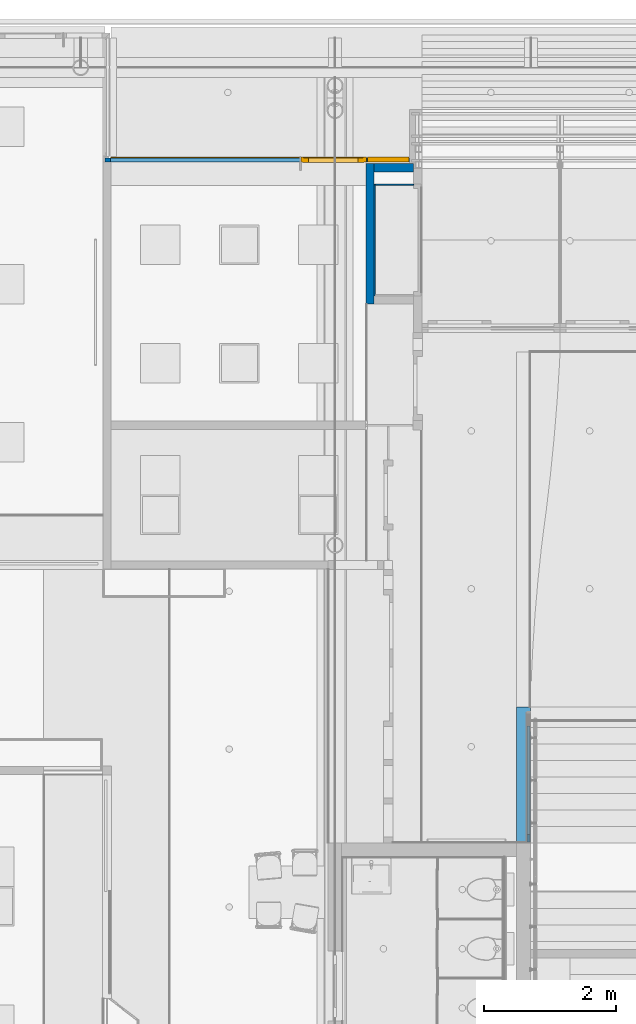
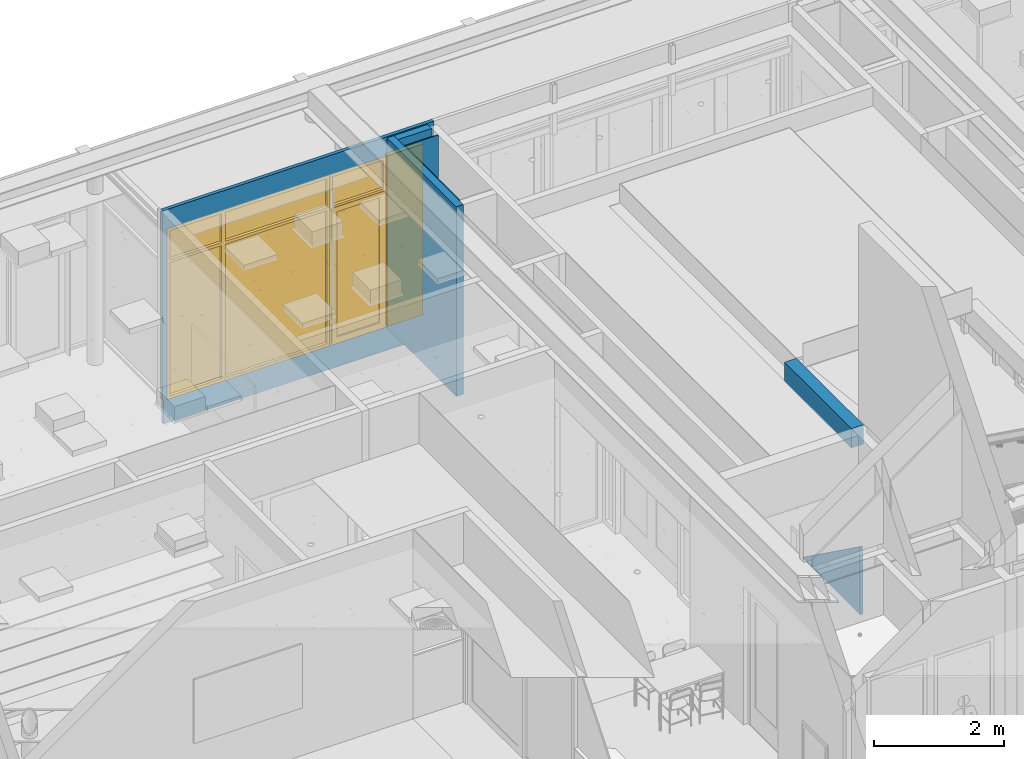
# One storey, part 82 of 347: 7 walls, 3 windows, 3 openings.
"""IFC2X3 building model written with IfcOpenShell, lengths in millimetres."""

import ifcopenshell
import ifcopenshell.guid

model = None  # the IFC model being written
_history = None  # IfcOwnerHistory: only IFC2X3 demands one
_inside = {}  # id of a spatial element -> (the spatial element, [elements in it])
_under = {}  # id of a project, library or spatial element -> (it, [spatial elements below it])
_declared = {}  # id of a project -> (the project, [libraries it declares])
_typed = {}  # id of a type object -> (the type object, [elements of that type])
_made_of = {}  # id of a material, layer set ... -> (it, [elements and type objects made of it])


def new_model(schema):
    """Start an empty IFC model of exactly this schema.

    Asked for "IFC4X3", IfcOpenShell would pick the latest addendum, in which some entities
    have other attributes; the version numbers below select the first issue.
    IFC2X3 requires an IfcOwnerHistory on every rooted entity: one is made here for all.
    """
    global model, _history
    if schema == "IFC4X3":
        model = ifcopenshell.file(schema_version=(4, 3, 0, 0))
    else:
        model = ifcopenshell.file(schema=schema)
    _inside.clear()
    _under.clear()
    _declared.clear()
    _typed.clear()
    _made_of.clear()
    _history = None
    if model.schema == "IFC2X3":
        org = make("IfcOrganization", Name="unknown")
        user = make(
            "IfcPersonAndOrganization",
            ThePerson=make("IfcPerson", FamilyName="unknown"),
            TheOrganization=org,
        )
        app = make(
            "IfcApplication",
            ApplicationDeveloper=org,
            Version="unknown",
            ApplicationFullName="unknown",
            ApplicationIdentifier="unknown",
        )
        _history = make(
            "IfcOwnerHistory",
            OwningUser=user,
            OwningApplication=app,
            ChangeAction="ADDED",
            CreationDate=0,
        )
    return model


def make(cls, **values):
    """One entity of the class cls with the attributes given. An attribute that is None is left unset."""
    return model.create_entity(
        cls, **{name: value for name, value in values.items() if value is not None}
    )


def entity(cls, *values):
    """Any entity or typed value of the class cls, its attributes in the order of the schema. None: left unset."""
    e = model.create_entity(cls)
    for i, value in enumerate(values):
        if value is not None:
            e[i] = value
    return e


def rooted(cls, **values):
    """An entity with a GlobalId (a new one), such as an element, a storey or a relation."""
    return make(cls, GlobalId=ifcopenshell.guid.new(), OwnerHistory=_history, **values)


def si_unit(unit_type, name, prefix=None):
    """IfcSIUnit, for example si_unit("LENGTHUNIT", "METRE", prefix="MILLI")."""
    return make("IfcSIUnit", UnitType=unit_type, Prefix=prefix, Name=name)


def converted_unit(unit_type, name, factor, base, dimensions=None, offset=None):
    """IfcConversionBasedUnit, such as the inch: factor (a typed value) times the base unit."""
    return make(
        "IfcConversionBasedUnit"
        if offset is None
        else "IfcConversionBasedUnitWithOffset",
        ConversionOffset=offset,
        Dimensions=None
        if dimensions is None
        else entity("IfcDimensionalExponents", *dimensions),
        UnitType=unit_type,
        Name=name,
        ConversionFactor=make(
            "IfcMeasureWithUnit", ValueComponent=factor, UnitComponent=base
        ),
    )


def derived_unit(unit_type, elements):
    """IfcDerivedUnit: a product of units, each with its exponent."""
    return make(
        "IfcDerivedUnit",
        Elements=[
            make("IfcDerivedUnitElement", Unit=unit, Exponent=power)
            for unit, power in elements
        ],
        UnitType=unit_type,
    )


def money_unit(currency):
    """IfcMonetaryUnit."""
    return make("IfcMonetaryUnit", Currency=currency)


def assignment(units):
    """IfcUnitAssignment: the units of a project."""
    return None if units is None else make("IfcUnitAssignment", Units=units)


def point(xyz):
    """IfcCartesianPoint."""
    return None if xyz is None else make("IfcCartesianPoint", Coordinates=xyz)


def direction(xyz):
    """IfcDirection."""
    return None if xyz is None else make("IfcDirection", DirectionRatios=xyz)


def frame(location, z_axis=None, x_axis=None):
    """IfcAxis2Placement3D, a coordinate frame: its origin and axes. An axis left out is left unset."""
    return make(
        "IfcAxis2Placement3D",
        Location=point(location),
        Axis=direction(z_axis),
        RefDirection=direction(x_axis),
    )


def origin_with_axes():
    """The frame at (0, 0, 0) with the z axis (0, 0, 1) and the x axis (1, 0, 0) written out."""
    return frame((0.0, 0.0, 0.0), z_axis=(0.0, 0.0, 1.0), x_axis=(1.0, 0.0, 0.0))


def place(relative_to, where):
    """IfcLocalPlacement: puts the frame where relative to a parent placement (None: the world)."""
    return make(
        "IfcLocalPlacement", PlacementRelTo=relative_to, RelativePlacement=where
    )


def context(
    kind, dimensions, precision=None, world=None, true_north=None, identifier=None
):
    """IfcGeometricRepresentationContext, for example the 3D "Model" context."""
    return make(
        "IfcGeometricRepresentationContext",
        ContextIdentifier=identifier,
        ContextType=kind,
        CoordinateSpaceDimension=dimensions,
        Precision=precision,
        WorldCoordinateSystem=world,
        TrueNorth=true_north,
    )


def subcontext(parent, identifier, kind, view, scale=None):
    """IfcGeometricRepresentationSubContext, for example "Body" below "Model"."""
    return make(
        "IfcGeometricRepresentationSubContext",
        ContextIdentifier=identifier,
        ContextType=kind,
        ParentContext=parent,
        TargetScale=scale,
        TargetView=view,
    )


def project(units=None, contexts=None):
    """IfcProject with its units and contexts."""
    return rooted(
        "IfcProject",
        Name="project",
        RepresentationContexts=contexts,
        UnitsInContext=assignment(units),
    )


def spatial(cls, under=None, at=None, **own):
    """A site, building, storey or space (cls), placed at a placement, below another one or the project."""
    s = rooted(cls, ObjectPlacement=at, **own)
    if under is not None:
        _under.setdefault(under.id(), (under, []))[1].append(s)
    return s


def faces_of(points, faces, orient=None, outer=None):
    """IfcFace entities. A face is a list of loops; a loop is a list of indices into points, from 0.

    orient and outer hold one flag for each loop. By default every Orientation is true, the
    first loop of a face is its IfcFaceOuterBound and the others are IfcFaceBound.
    """
    made = []
    for i, loops in enumerate(faces):
        bounds = []
        for j, loop in enumerate(loops):
            is_outer = j == 0 if outer is None else outer[i][j]
            bounds.append(
                make(
                    "IfcFaceOuterBound" if is_outer else "IfcFaceBound",
                    Bound=make("IfcPolyLoop", Polygon=[points[k] for k in loop]),
                    Orientation=True if orient is None else orient[i][j],
                )
            )
        made.append(make("IfcFace", Bounds=bounds))
    return made


def open_shell(faces, orient=None, outer=None):
    """The faces of one IfcOpenShell. surface_model builds it on its shared points."""
    return ("IfcOpenShell", faces, orient, outer)


def faceted_brep(points, faces, orient=None, outer=None, voids=None):
    """IfcFacetedBrep: a solid bounded by flat faces; with voids (closed shells), ...WithVoids."""
    shared = [point(p) for p in points]
    hull = make("IfcClosedShell", CfsFaces=faces_of(shared, faces, orient, outer))
    if voids is None:
        return make("IfcFacetedBrep", Outer=hull)
    return make(
        "IfcFacetedBrepWithVoids",
        Outer=hull,
        Voids=[
            make(cls, CfsFaces=faces_of(shared, fs, o, b)) for cls, fs, o, b in voids
        ],
    )


def surface_model(cls, points, shells):
    """IfcFaceBasedSurfaceModel or IfcShellBasedSurfaceModel (cls): surfaces that need not close."""
    shared = [point(p) for p in points]
    made = [make(c, CfsFaces=faces_of(shared, fs, o, b)) for c, fs, o, b in shells]
    if cls == "IfcFaceBasedSurfaceModel":
        return make(cls, FbsmFaces=made)
    return make(cls, SbsmBoundary=made)


def shape(context_of_items, identifier, shape_type, items):
    """IfcShapeRepresentation: the items that make up one representation, for example the "Body"."""
    return make(
        "IfcShapeRepresentation",
        ContextOfItems=context_of_items,
        RepresentationIdentifier=identifier,
        RepresentationType=shape_type,
        Items=items,
    )


def material(Name=None, Category=None):
    """IfcMaterial."""
    return make("IfcMaterial", Name=Name, Category=Category)


def made_of(thing, what):
    """Note that an element or type object is made of a material, layer set ...; save() writes the relation."""
    if what is not None:
        _made_of.setdefault(what.id(), (what, []))[1].append(thing)
    return thing


def type_object(cls, material=None, **own):
    """A type object (cls), such as IfcWallType, which elements share."""
    return made_of(rooted(cls, **own), material)


def element(
    cls,
    number,
    at=None,
    inside=None,
    cuts=None,
    type_object=None,
    material=None,
    context=None,
    identifier="Body",
    shape_type=None,
    held_by="IfcProductDefinitionShape",
    body=None,
    shapes=None,
    **own,
):
    """One element of the class cls, such as IfcWall. Its Tag is "e" and its number.

    at: its placement. inside: the storey or other place that contains it. cuts: it is an
    opening in that element (IfcRelVoidsElement). A single representation is given by context,
    identifier, shape_type and body (its items); several are given by shapes. held_by: the class
    of the entity that holds the representations. save() writes the other relations.
    """
    e = rooted(cls, Tag="e%d" % number, ObjectPlacement=at, **own)
    if body is not None:
        shapes = [shape(context, identifier, shape_type, body)]
    if shapes is not None:
        e.Representation = make(held_by, Representations=shapes)
    if inside is not None:
        _inside.setdefault(inside.id(), (inside, []))[1].append(e)
    if cuts is not None:
        rooted(
            "IfcRelVoidsElement", RelatingBuildingElement=cuts, RelatedOpeningElement=e
        )
    if type_object is not None:
        _typed.setdefault(type_object.id(), (type_object, []))[1].append(e)
    return made_of(e, material)


def fill(opening, filler):
    """IfcRelFillsElement: the door or window that sits in an opening."""
    return rooted(
        "IfcRelFillsElement",
        RelatingOpeningElement=opening,
        RelatedBuildingElement=filler,
    )


def aggregate(whole, parts):
    """IfcRelAggregates: a whole, such as a stair, and the parts it consists of."""
    return rooted("IfcRelAggregates", RelatingObject=whole, RelatedObjects=parts)


def save(model, path):
    """Write the relations noted so far, then the file.

    IfcRelAggregates (storeys below a building ...), IfcRelContainedInSpatialStructure (elements
    in a storey), IfcRelDefinesByType, IfcRelAssociatesMaterial and IfcRelDeclares: one each for
    every whole, place, type object, material and project.
    """
    for whole, parts in _under.values():
        aggregate(whole, parts)
    for where, things in _inside.values():
        rooted(
            "IfcRelContainedInSpatialStructure",
            RelatedElements=things,
            RelatingStructure=where,
        )
    for kind, things in _typed.values():
        rooted("IfcRelDefinesByType", RelatedObjects=things, RelatingType=kind)
    for what, things in _made_of.values():
        rooted("IfcRelAssociatesMaterial", RelatedObjects=things, RelatingMaterial=what)
    for by, libraries in _declared.values():
        rooted("IfcRelDeclares", RelatingContext=by, RelatedDefinitions=libraries)
    model.write(path)


model = new_model("IFC2X3")

# Units and contexts
model_context = context("Model", 3, precision=0.01, world=origin_with_axes(), true_north=direction((0.0, 1.0)))
plan_context = context("Plan", 3, precision=0.01, world=origin_with_axes(), true_north=direction((0.0, 1.0)))
body_context = subcontext(model_context, "Body", "Model", "MODEL_VIEW")
ifc_project = project(units=[si_unit("LENGTHUNIT", "METRE", prefix="MILLI"), si_unit("AREAUNIT", "SQUARE_METRE"), si_unit("VOLUMEUNIT", "CUBIC_METRE"), converted_unit("PLANEANGLEUNIT", "DEGREE", entity("IfcPlaneAngleMeasure", 0.0174532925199), si_unit("PLANEANGLEUNIT", "RADIAN"), dimensions=[0, 0, 0, 0, 0, 0, 0]), money_unit("EUR"), converted_unit("TIMEUNIT", "Year", entity("IfcTimeMeasure", 31556926.0), si_unit("TIMEUNIT", "SECOND"), dimensions=[0, 0, 1, 0, 0, 0, 0]), si_unit("MASSUNIT", "GRAM", prefix="KILO"), si_unit("THERMODYNAMICTEMPERATUREUNIT", "DEGREE_CELSIUS"), si_unit("LUMINOUSINTENSITYUNIT", "LUMEN"), si_unit("ENERGYUNIT", "JOULE", prefix="MEGA"), derived_unit("THERMALCONDUCTANCEUNIT", [(si_unit("POWERUNIT", "WATT"), 1), (si_unit("LENGTHUNIT", "METRE"), -1), (si_unit("THERMODYNAMICTEMPERATUREUNIT", "KELVIN"), -1)]), derived_unit("SPECIFICHEATCAPACITYUNIT", [(si_unit("ENERGYUNIT", "JOULE"), 1), (si_unit("MASSUNIT", "GRAM", prefix="KILO"), -1), (si_unit("THERMODYNAMICTEMPERATUREUNIT", "KELVIN"), -1)]), derived_unit("MASSDENSITYUNIT", [(si_unit("MASSUNIT", "GRAM", prefix="KILO"), 1), (si_unit("VOLUMEUNIT", "CUBIC_METRE"), -1)])], contexts=[model_context, plan_context])

# Site, building, storey
site_placement = place(None, origin_with_axes())
site = spatial("IfcSite", under=ifc_project, at=site_placement, Name="Site", CompositionType="ELEMENT")
building_placement = place(site_placement, origin_with_axes())
building = spatial("IfcBuilding", under=site, at=building_placement, Name="Naam gebouw", CompositionType="ELEMENT")
storey_placement = place(building_placement, origin_with_axes())
storey = spatial("IfcBuildingStorey", under=building, at=storey_placement, Name="begane grond", CompositionType="ELEMENT", Elevation=0.0)

# Walls
ifc_material_1 = material(Name="ALG - LICHTE SCHEIDINGSWAND")
wall_type_1 = type_object("IfcWallType", Name="ALG LSW 125 125", PredefinedType="NOTDEFINED")
wall_1_placement = place(storey_placement, frame((36075.0, 42990.5, 0.0), z_axis=(0.0, 0.0, 1.0), x_axis=(0.0, 1.0, 0.0)))
element("IfcWall", 1, at=wall_1_placement, inside=storey, type_object=wall_type_1, material=ifc_material_1, Name="22_GF 125 ECO DGS/2.75.2A", context=body_context, shape_type="Brep", body=[
    faceted_brep([(2134.5, -125.0, 3560.0), (2134.5, 0.0, 3560.0), (0.0, 0.0, 3560.0), (0.0, -125.0, 3560.0), (2134.5, 0.0, 0.0), (2134.5, -125.0, 0.0), (0.0, 0.0, 0.0), (0.0, -125.0, 0.0)], [[[0, 1, 2, 3]], [[4, 1, 0, 5]], [[4, 6, 2, 1]], [[6, 7, 3, 2]], [[5, 0, 3, 7]], [[4, 5, 7, 6]]]),
])
wall_2_placement = place(storey_placement, frame((36925.0, 45000.0, 0.0), z_axis=(0.0, 0.0, 1.0), x_axis=(-1.0, 0.0, 0.0)))
element("IfcWall", 2, at=wall_2_placement, inside=storey, type_object=wall_type_1, material=ifc_material_1, Name="22_GF 125 ECO DGS/2.75.2A", context=body_context, shape_type="Brep", body=[
    faceted_brep([(125.0, -125.0, 2580.0), (125.0, -53.0, 2580.0), (125.0, -53.0, 2765.0), (125.0, -125.0, 2765.0), (125.0, -125.0, 3560.0), (125.0, 0.0, 3560.0), (125.0, 0.0, 0.0), (125.0, -125.0, 0.0), (185.0, -53.0, 2580.0), (185.0, -125.0, 2580.0), (185.0, -53.0, 2765.0), (185.0, -125.0, 2765.0), (725.0, -125.0, 0.0), (725.0, -125.0, 3560.0), (725.0, 0.0, 3560.0), (725.0, 0.0, 0.0)], [[[0, 1, 2, 3, 4, 5, 6, 7]], [[8, 1, 0, 9]], [[10, 2, 1, 8]], [[10, 11, 3, 2]], [[11, 9, 0, 7, 12, 13, 4, 3]], [[4, 13, 14, 5]], [[5, 14, 15, 6]], [[6, 15, 12, 7]], [[8, 9, 11, 10]], [[15, 14, 13, 12]]]),
])
ifc_material_2 = material(Name="Hout - Spaanplaat slave")
wall_type_2 = type_object("IfcWallType", Name="Hout - Spaanplaat slave 18", PredefinedType="NOTDEFINED")
wall_3_placement = place(storey_placement, frame((36200.0, 43115.5, 0.0), z_axis=(0.0, 0.0, 1.0), x_axis=(0.0, 1.0, 0.0)))
element("IfcWall", 3, at=wall_3_placement, inside=storey, type_object=wall_type_2, material=ifc_material_2, Name="22_GF 125 ECO DGS/2.75.2A", context=body_context, shape_type="Brep", body=[
    faceted_brep([(1700.0, 0.0, 0.0), (1700.0, 0.0, 3560.0), (1700.0, -18.0, 3560.0), (1700.0, -18.0, 0.0), (0.0, 0.0, 0.0), (0.0, 0.0, 3560.0), (0.0, -18.0, 3560.0), (0.0, -18.0, 0.0)], [[[0, 1, 2, 3]], [[4, 5, 1, 0]], [[5, 6, 2, 1]], [[3, 2, 6, 7]], [[4, 0, 3, 7]], [[7, 6, 5, 4]]]),
])
wall_4_placement = place(storey_placement, frame((36925.0, 44815.5, 0.0), z_axis=(0.0, 0.0, 1.0), x_axis=(-1.0, 0.0, 0.0)))
element("IfcWall", 4, at=wall_4_placement, inside=storey, type_object=wall_type_2, material=ifc_material_2, Name="22_GF 125 ECO DGS/2.75.3A", context=body_context, shape_type="Brep", body=[
    faceted_brep([(125.0, 0.0, 0.0), (707.0, 0.0, 0.0), (707.0, 0.0, 3560.0), (125.0, 0.0, 3560.0), (125.0, 18.0, 0.0), (707.0, 18.0, 0.0), (707.0, 18.0, 3560.0), (125.0, 18.0, 3560.0)], [[[0, 1, 2, 3]], [[4, 5, 1, 0]], [[1, 5, 6, 2]], [[2, 6, 7, 3]], [[4, 0, 3, 7]], [[5, 4, 7, 6]]]),
])
ifc_material_3 = material(Name="ALG - LICHTE SCHEIDINGSWAND - slave")
wall_type_3 = type_object("IfcWallType", Name="ALG - LICHTE SCHEIDINGSWAND - slave 50", PredefinedType="NOTDEFINED")
wall_5_placement = place(storey_placement, frame((38525.0, 36577.5133479, 0.0), z_axis=(0.0, 0.0, 1.0), x_axis=(0.0, -1.0, 0.0)))
element("IfcWall", 5, at=wall_5_placement, inside=storey, type_object=wall_type_3, material=ifc_material_3, Name="22_GF 125 ECO DGS/2.75.2A", context=body_context, shape_type="Brep", body=[
    faceted_brep([(1765.51334787, 50.0, 0.0), (1765.51334787, 0.0, 0.0), (0.0, 0.0, 0.0), (0.0, 40.0, 0.0), (85.5717865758, 40.0, 0.0), (85.5717865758, 50.0, 0.0), (1765.51334787, 50.0, 1209.55795002), (1765.51334787, 40.0, 1209.55795002), (1765.51334787, 40.0, 1283.4919752), (1765.51334787, 0.0, 1283.4919752), (0.0, 0.0, 12.3223375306), (0.0, 40.0, 12.3223375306)], [[[0, 1, 2, 3, 4, 5]], [[1, 0, 6, 7, 8, 9]], [[10, 2, 1, 9]], [[3, 2, 10, 11]], [[8, 7, 4, 3, 11]], [[5, 4, 7, 6]], [[5, 6, 0]], [[11, 10, 9, 8]]]),
])

# Wall, openings, windows
ifc_material_4 = material(Name="31 pui/kozijn")
wall_type_4 = type_object("IfcWallType", Name="31 pui/kozijn 62", PredefinedType="NOTDEFINED")
wall_6_placement = place(storey_placement, frame((32108.0032564, 45153.0, -450.0), z_axis=(0.0, 0.0, 1.0), x_axis=(1.0, 7.50560472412e-08, 0.0)))
wall_6 = element("IfcWall", 6, at=wall_6_placement, inside=storey, type_object=wall_type_4, material=ifc_material_4, Name="21_53 wandtegels keramisch", context=body_context, shape_type="Brep", body=[
    faceted_brep([(4631.99674359, -0.000347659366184, 3215.0), (4816.99674436, -0.000361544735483, 3215.0), (4816.99674806, -0.000361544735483, 4010.0), (0.0, 0.0, 4010.0), (0.0, 0.0, 3710.0), (0.0, 0.0, 450.0), (20.0, -1.5011281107e-06, 450.0), (20.0, -1.5011281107e-06, 0.0), (4816.99674806, -0.000361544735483, 0.0), (4816.99674359, -0.000361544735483, 380.0), (4811.99674359, -0.000361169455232, 380.0), (4656.99674359, -0.000349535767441, 380.0), (4656.99674359, -0.000349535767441, 450.0), (4631.99674359, -0.000347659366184, 450.0), (4621.99674359, -0.000346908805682, 3650.0), (4621.99674359, -0.000346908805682, 440.0), (3986.99674359, -0.00029924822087, 440.0), (3986.99674359, -0.00029924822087, 3650.0), (2976.99674284, -0.000223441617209, 3650.0), (3976.99674359, -0.000298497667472, 3650.0), (3976.99674359, -0.000298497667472, 440.0), (2976.99674284, -0.000223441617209, 440.0), (82.0, -6.15460038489e-06, 440.0), (82.0, -6.15460038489e-06, 3650.0), (2961.99674209, -0.000222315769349, 3650.0), (2961.99674209, -0.000222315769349, 440.0), (4816.99674901, 61.9996384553, 3215.0), (4631.99674824, 61.9996523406, 3215.0), (4816.99675271, 61.9996384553, 4010.0), (4.65347937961e-06, 62.0, 4010.0), (4.65347937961e-06, 62.0, 3710.0), (4.65347937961e-06, 62.0, 450.0), (20.0000046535, 61.9999984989, 450.0), (20.0000046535, 61.9999984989, 0.0), (4816.99675271, 61.9996384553, 0.0), (4816.99674824, 61.9996384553, 450.0), (4816.99674397, 4.99963845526, 450.0), (4816.99674397, 4.99963845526, 380.0), (4776.99674644, 37.9996414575, 380.0), (4656.99674644, 37.9996504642, 380.0), (4776.99674397, 4.9996414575, 380.0), (4656.99674644, 37.9996504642, 450.0), (4776.99674644, 37.9996414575, 450.0), (4776.99674397, 4.9996414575, 450.0), (4631.99674824, 61.9996523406, 450.0), (4621.99674824, 61.9996530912, 3650.0), (4621.99674824, 61.9996530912, 440.0), (3986.99674824, 61.9997007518, 440.0), (3986.99674824, 61.9997007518, 3650.0), (3976.99674824, 61.9997015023, 3650.0), (2976.99674749, 61.9997765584, 3650.0), (3976.99674824, 61.9997015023, 440.0), (2976.99674749, 61.9997765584, 440.0), (82.0000046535, 61.9999938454, 440.0), (82.0000046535, 61.9999938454, 3650.0), (2961.99674674, 61.9997776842, 3650.0), (2961.99674674, 61.9997776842, 440.0)], [[[0, 1, 2, 3, 4, 5, 6, 7, 8, 9, 10, 11, 12, 13], [14, 15, 16, 17], [18, 19, 20, 21], [22, 23, 24, 25]], [[26, 1, 0, 27]], [[26, 28, 2, 1]], [[28, 29, 3, 2]], [[5, 4, 3, 29, 30, 31]], [[32, 6, 5, 31]], [[6, 32, 33, 7]], [[33, 34, 8, 7]], [[8, 34, 35, 36, 37, 9]], [[38, 39, 11, 10, 9, 37, 40]], [[11, 39, 41, 12]], [[41, 42, 43, 36, 35, 44, 13, 12]], [[0, 13, 44, 27]], [[15, 14, 45, 46]], [[16, 15, 46, 47]], [[17, 16, 47, 48]], [[14, 17, 48, 45]], [[49, 19, 18, 50]], [[51, 20, 19, 49]], [[52, 21, 20, 51]], [[50, 18, 21, 52]], [[53, 54, 23, 22]], [[54, 55, 24, 23]], [[55, 56, 25, 24]], [[56, 53, 22, 25]], [[32, 31, 30, 29, 28, 26, 27, 44, 35, 34, 33], [45, 48, 47, 46], [51, 49, 50, 52], [53, 56, 55, 54]], [[43, 40, 37, 36]], [[39, 38, 42, 41]], [[42, 38, 40, 43]]]),
])
opening_1_placement = place(wall_6_placement, frame((4304.49674359, 0.0, 440.0), z_axis=(0.0, 0.0, 1.0), x_axis=(1.0, 0.0, 0.0)))
opening_1 = element("IfcOpeningElement", 7, at=opening_1_placement, cuts=wall_6, Name="32_merk-AP", context=body_context, shape_type="Brep", body=[
    faceted_brep([(317.500010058, 133.99997617, 0.0), (317.500010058, 133.99997617, 3210.0), (317.499995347, -62.0000238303, 3210.0), (317.499995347, -62.0000238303, 0.0), (-317.499989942, 134.00002383, 0.0), (-317.499989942, 134.00002383, 3210.0), (-317.500004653, -61.9999761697, 3210.0), (-317.500004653, -61.9999761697, 0.0)], [[[0, 1, 2, 3]], [[0, 4, 5, 1]], [[1, 5, 6, 2]], [[3, 2, 6, 7]], [[4, 0, 3, 7]], [[5, 4, 7, 6]]]),
])
opening_2_placement = place(wall_6_placement, frame((3476.99674322, 0.0, 440.0), z_axis=(0.0, 0.0, 1.0), x_axis=(1.0, 0.0, 0.0)))
opening_2 = element("IfcOpeningElement", 8, at=opening_2_placement, cuts=wall_6, Name="32_merk-AO1", context=body_context, shape_type="Brep", body=[
    faceted_brep([(500.000010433, 133.999962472, 0.0), (500.000010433, 133.999962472, 3210.0), (499.999995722, -62.000037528, 3210.0), (499.999995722, -62.000037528, 0.0), (-499.999990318, 134.000037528, 0.0), (-499.999990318, 134.000037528, 3210.0), (-500.000005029, -61.999962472, 3210.0), (-500.000005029, -61.999962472, 0.0)], [[[0, 1, 2, 3]], [[0, 4, 5, 1]], [[1, 5, 6, 2]], [[3, 2, 6, 7]], [[4, 0, 3, 7]], [[5, 4, 7, 6]]]),
])
opening_3_placement = place(wall_6_placement, frame((1521.99837104, 0.0, 440.0), z_axis=(0.0, 0.0, 1.0), x_axis=(1.0, 0.0, 0.0)))
opening_3 = element("IfcOpeningElement", 9, at=opening_3_placement, cuts=wall_6, Name="32_merk-AO2", context=body_context, shape_type="Brep", body=[
    faceted_brep([(-1439.9983757, -61.9998919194, 0.0), (-1439.9983757, -61.9998919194, 3210.0), (-1439.99836099, 134.000108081, 3210.0), (-1439.99836099, 134.000108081, 0.0), (1439.99836639, -62.0001080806, 0.0), (1439.99836639, -62.0001080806, 3210.0), (1439.9983811, 133.999891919, 3210.0), (1439.9983811, 133.999891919, 0.0)], [[[0, 1, 2, 3]], [[0, 4, 5, 1]], [[1, 5, 6, 2]], [[3, 2, 6, 7]], [[4, 0, 3, 7]], [[5, 4, 7, 6]]]),
])
window_style_1 = type_object("IfcWindowStyle", Name="Rmeerkeuze 25", ConstructionType="NOTDEFINED", OperationType="DOUBLE_PANEL_HORIZONTAL", ParameterTakesPrecedence=False, Sizeable=False)
window_1_placement = place(opening_1_placement, frame((317.5, 0.0, 0.0), z_axis=(0.0, 0.0, 1.0), x_axis=(-1.0, 0.0, 0.0)))
window_1 = element("IfcWindow", 10, at=window_1_placement, inside=storey, type_object=window_style_1, Name="32_merk-AP", ObjectType="WINDOW", OverallHeight=3210.0, OverallWidth=635.0, context=body_context, shape_type="Brep", body=[
    faceted_brep([(580.999994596, -71.9996966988, 2556.0), (580.999994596, -71.9996966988, 2610.0), (581.0, 0.0003033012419, 2610.0), (581.0, 0.0003033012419, 2556.0), (580.999994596, -71.9996966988, 54.0), (634.999994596, -71.9997007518, 54.0), (634.999994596, -71.9997007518, 3156.0), (580.999994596, -71.9996966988, 3156.0), (581.0, 0.0003033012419, 3156.0), (635.0, 0.00029924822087, 3156.0), (635.0, 0.00029924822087, 54.0), (581.0, 0.0003033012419, 54.0)], [[[0, 1, 2, 3]], [[0, 4, 5, 6, 7, 1]], [[1, 7, 8, 2]], [[3, 2, 8, 9, 10, 11]], [[4, 0, 3, 11]], [[5, 4, 11, 10]], [[6, 5, 10, 9]], [[7, 6, 9, 8]]]),
    faceted_brep([(53.999994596, -71.9996571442, 54.0), (-5.4040256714e-06, -71.9996530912, 54.0), (0.0, 0.000346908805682, 54.0), (54.0, 0.000342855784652, 54.0), (53.999994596, -71.9996571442, 2556.0), (53.999994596, -71.9996571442, 2610.0), (53.999994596, -71.9996571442, 3156.0), (-5.4040256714e-06, -71.9996530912, 3156.0), (0.0, 0.000346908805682, 3156.0), (54.0, 0.000342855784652, 3156.0), (54.0, 0.000342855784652, 2610.0), (54.0, 0.000342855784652, 2556.0)], [[[0, 1, 2, 3]], [[0, 4, 5, 6, 7, 1]], [[1, 7, 8, 2]], [[3, 2, 8, 9, 10, 11]], [[4, 0, 3, 11]], [[5, 4, 11, 10]], [[6, 5, 10, 9]], [[7, 6, 9, 8]]]),
    faceted_brep([(580.999994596, -71.9996966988, 2610.0), (580.999994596, -71.9996966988, 2556.0), (581.0, 0.0003033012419, 2556.0), (581.0, 0.0003033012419, 2610.0), (53.999994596, -71.9996571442, 2610.0), (53.999994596, -71.9996571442, 2556.0), (54.0, 0.000342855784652, 2556.0), (54.0, 0.000342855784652, 2610.0)], [[[0, 1, 2, 3]], [[0, 4, 5, 1]], [[1, 5, 6, 2]], [[3, 2, 6, 7]], [[4, 0, 3, 7]], [[5, 4, 7, 6]]]),
    faceted_brep([(580.999994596, -71.9996966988, 54.0), (634.999994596, -71.9997007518, 54.0), (635.0, 0.00029924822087, 54.0), (581.0, 0.0003033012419, 54.0), (53.999994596, -71.9996571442, 54.0), (-5.4040256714e-06, -71.9996530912, 54.0), (-5.4040256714e-06, -71.9996530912, 0.0), (634.999994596, -71.9997007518, 0.0), (635.0, 0.00029924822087, 0.0), (0.0, 0.000346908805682, 0.0), (0.0, 0.000346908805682, 54.0), (54.0, 0.000342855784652, 54.0)], [[[0, 1, 2, 3]], [[0, 4, 5, 6, 7, 1]], [[1, 7, 8, 2]], [[3, 2, 8, 9, 10, 11]], [[4, 0, 3, 11]], [[5, 4, 11, 10]], [[6, 5, 10, 9]], [[7, 6, 9, 8]]]),
    faceted_brep([(53.999994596, -71.9996571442, 3156.0), (-5.4040256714e-06, -71.9996530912, 3156.0), (0.0, 0.000346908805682, 3156.0), (54.0, 0.000342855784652, 3156.0), (580.999994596, -71.9996966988, 3156.0), (634.999994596, -71.9997007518, 3156.0), (634.999994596, -71.9997007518, 3210.0), (-5.4040256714e-06, -71.9996530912, 3210.0), (0.0, 0.000346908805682, 3210.0), (635.0, 0.00029924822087, 3210.0), (635.0, 0.00029924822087, 3156.0), (581.0, 0.0003033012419, 3156.0)], [[[0, 1, 2, 3]], [[0, 4, 5, 6, 7, 1]], [[1, 7, 8, 2]], [[3, 2, 8, 9, 10, 11]], [[4, 0, 3, 11]], [[5, 4, 11, 10]], [[6, 5, 10, 9]], [[7, 6, 9, 8]]]),
    faceted_brep([(580.999994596, -71.9996966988, 2610.0), (53.999994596, -71.9996571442, 2610.0), (54.0, 0.000342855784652, 2610.0), (581.0, 0.0003033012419, 2610.0), (580.999994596, -71.9996966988, 3156.0), (53.999994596, -71.9996571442, 3156.0), (54.0, 0.000342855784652, 3156.0), (581.0, 0.0003033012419, 3156.0)], [[[0, 1, 2, 3]], [[0, 4, 5, 1]], [[1, 5, 6, 2]], [[3, 2, 6, 7]], [[4, 0, 3, 7]], [[5, 4, 7, 6]]]),
    faceted_brep([(580.999994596, -71.9996966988, 54.0), (53.999994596, -71.9996571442, 54.0), (54.0, 0.000342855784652, 54.0), (581.0, 0.0003033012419, 54.0), (580.999994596, -71.9996966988, 2556.0), (53.999994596, -71.9996571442, 2556.0), (54.0, 0.000342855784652, 2556.0), (581.0, 0.0003033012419, 2556.0)], [[[0, 1, 2, 3]], [[0, 4, 5, 1]], [[1, 5, 6, 2]], [[3, 2, 6, 7]], [[4, 0, 3, 7]], [[5, 4, 7, 6]]]),
])
fill(opening_1, window_1)
window_style_2 = type_object("IfcWindowStyle", Name="R1 25", ConstructionType="NOTDEFINED", OperationType="DOUBLE_PANEL_HORIZONTAL", ParameterTakesPrecedence=False, Sizeable=False)
window_2_placement = place(opening_2_placement, frame((500.000000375, 0.0, 0.0), z_axis=(0.0, 0.0, 1.0), x_axis=(-1.0, 0.0, 0.0)))
window_2 = element("IfcWindow", 11, at=window_2_placement, inside=storey, type_object=window_style_2, Name="32_merk-AO1", ObjectType="WINDOW", OverallHeight=3210.0, OverallWidth=1000.0, context=body_context, shape_type="SurfaceModel", body=[
    faceted_brep([(976.000000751, 0.000225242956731, 54.0), (976.000000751, 0.000225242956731, 2571.0), (961.000000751, 0.000226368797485, 2571.0), (961.000000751, 0.000226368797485, 2610.0), (961.000000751, 0.000226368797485, 3156.0), (1000.00000075, 0.000223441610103, 3156.0), (1000.00000075, 0.000223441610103, 54.0), (975.999996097, -61.999774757, 54.0), (975.999996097, -61.999774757, 2571.0), (960.999996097, -61.9997736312, 2571.0), (960.999996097, -61.9997736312, 2556.0), (960.999995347, -71.9997736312, 2556.0), (960.999995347, -71.9997736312, 2610.0), (960.999995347, -71.9997736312, 3156.0), (999.999995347, -71.9997765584, 3156.0), (999.999995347, -71.9997765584, 54.0), (960.999995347, -71.9997736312, 54.0), (960.999996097, -61.9997736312, 54.0)], [[[0, 1, 2, 3, 4, 5, 6]], [[1, 0, 7, 8]], [[9, 2, 1, 8]], [[9, 10, 11, 12, 3, 2]], [[3, 12, 13, 4]], [[4, 13, 14, 5]], [[5, 14, 15, 6]], [[7, 0, 6, 15, 16, 17]], [[10, 9, 8, 7, 17]], [[10, 17, 16, 11]], [[12, 11, 16, 15, 14, 13]]]),
    faceted_brep([(39.0, 0.000295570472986, 2571.0), (39.0, 0.000295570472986, 54.0), (0.0, 0.000298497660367, 54.0), (0.0, 0.000298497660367, 3156.0), (54.0, 0.000294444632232, 3156.0), (54.0, 0.000294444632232, 2610.0), (54.0, 0.000294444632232, 2571.0), (38.9999953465, -61.9997044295, 2571.0), (38.9999953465, -61.9997044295, 54.0), (53.9999953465, -61.9997055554, 54.0), (53.999994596, -71.9997055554, 54.0), (-5.4040256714e-06, -71.9997015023, 54.0), (-5.4040256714e-06, -71.9997015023, 3156.0), (53.999994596, -71.9997055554, 3156.0), (53.999994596, -71.9997055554, 2610.0), (53.9999953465, -61.9997055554, 2571.0), (53.999994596, -71.9997055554, 2556.0), (53.9999953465, -61.9997055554, 2556.0)], [[[0, 1, 2, 3, 4, 5, 6]], [[1, 0, 7, 8]], [[8, 9, 10, 11, 2, 1]], [[2, 11, 12, 3]], [[3, 12, 13, 4]], [[4, 13, 14, 5]], [[15, 6, 5, 14, 16, 17]], [[0, 6, 15, 7]], [[9, 8, 7, 15, 17]], [[9, 17, 16, 10]], [[11, 10, 16, 14, 13, 12]]]),
    faceted_brep([(961.000000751, 0.000226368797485, 2571.0), (54.0, 0.000294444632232, 2571.0), (54.0, 0.000294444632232, 2610.0), (961.000000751, 0.000226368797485, 2610.0), (53.9999953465, -61.9997055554, 2571.0), (960.999996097, -61.9997736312, 2571.0), (53.9999953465, -61.9997055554, 2556.0), (53.999994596, -71.9997055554, 2556.0), (53.999994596, -71.9997055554, 2610.0), (960.999995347, -71.9997736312, 2610.0), (960.999995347, -71.9997736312, 2556.0), (960.999996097, -61.9997736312, 2556.0)], [[[0, 1, 2, 3]], [[4, 1, 0, 5]], [[4, 6, 7, 8, 2, 1]], [[2, 8, 9, 3]], [[5, 0, 3, 9, 10, 11]], [[6, 4, 5, 11]], [[6, 11, 10, 7]], [[10, 9, 8, 7]]]),
    faceted_brep([(53.9999953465, -61.9997055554, 54.0), (38.9999953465, -61.9997044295, 54.0), (39.0, 0.000295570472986, 54.0), (0.0, 0.000298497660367, 54.0), (-5.4040256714e-06, -71.9997015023, 54.0), (53.999994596, -71.9997055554, 54.0), (960.999996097, -61.9997736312, 54.0), (975.999996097, -61.999774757, 54.0), (975.999996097, -61.999774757, 39.0), (38.9999953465, -61.9997044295, 39.0), (39.0, 0.000295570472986, 39.0), (976.000000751, 0.000225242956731, 39.0), (976.000000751, 0.000225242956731, 54.0), (1000.00000075, 0.000223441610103, 54.0), (1000.00000075, 0.000223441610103, 0.0), (0.0, 0.000298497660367, 0.0), (-5.4040256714e-06, -71.9997015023, 0.0), (999.999995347, -71.9997765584, 54.0), (960.999995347, -71.9997736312, 54.0), (999.999995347, -71.9997765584, 0.0)], [[[0, 1, 2, 3, 4, 5]], [[1, 0, 6, 7, 8, 9]], [[10, 2, 1, 9]], [[11, 12, 13, 14, 15, 3, 2, 10]], [[15, 16, 4, 3]], [[17, 18, 5, 4, 16, 19]], [[6, 0, 5, 18]], [[7, 6, 18, 17, 13, 12]], [[7, 12, 11, 8]], [[11, 10, 9, 8]], [[13, 17, 19, 14]], [[14, 19, 16, 15]]]),
    faceted_brep([(53.999994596, -71.9997055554, 3156.0), (-5.4040256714e-06, -71.9997015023, 3156.0), (0.0, 0.000298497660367, 3156.0), (54.0, 0.000294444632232, 3156.0), (960.999995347, -71.9997736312, 3156.0), (999.999995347, -71.9997765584, 3156.0), (999.999995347, -71.9997765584, 3210.0), (-5.4040256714e-06, -71.9997015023, 3210.0), (0.0, 0.000298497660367, 3210.0), (1000.00000075, 0.000223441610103, 3210.0), (1000.00000075, 0.000223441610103, 3156.0), (961.000000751, 0.000226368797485, 3156.0)], [[[0, 1, 2, 3]], [[0, 4, 5, 6, 7, 1]], [[1, 7, 8, 2]], [[3, 2, 8, 9, 10, 11]], [[4, 0, 3, 11]], [[5, 4, 11, 10]], [[6, 5, 10, 9]], [[7, 6, 9, 8]]]),
    surface_model("IfcShellBasedSurfaceModel", [(960.999995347, -71.9997736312, 2610.0), (960.999995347, -71.9997736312, 3156.0), (53.999994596, -71.9997055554, 3156.0), (53.999994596, -71.9997055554, 2610.0)], [open_shell([[[0, 1, 2, 3]]])]),
    surface_model("IfcShellBasedSurfaceModel", [(960.999996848, -51.9997736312, 2610.0), (53.9999960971, -51.9997055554, 2610.0), (53.9999960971, -51.9997055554, 3156.0), (960.999996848, -51.9997736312, 3156.0)], [open_shell([[[0, 1, 2, 3]]])]),
    faceted_brep([(885.999996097, -61.999768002, 2481.0), (975.999996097, -61.999774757, 2481.0), (976.000001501, 10.000225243, 2481.0), (886.000001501, 10.000231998, 2481.0), (885.999996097, -61.999768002, 129.0), (975.999996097, -61.999774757, 129.0), (976.000001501, 10.000225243, 129.0), (886.000001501, 10.000231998, 129.0)], [[[0, 1, 2, 3]], [[0, 4, 5, 1]], [[1, 5, 6, 2]], [[3, 2, 6, 7]], [[4, 0, 3, 7]], [[5, 4, 7, 6]]]),
    faceted_brep([(128.999995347, -61.9997111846, 129.0), (38.9999953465, -61.9997044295, 129.0), (39.0000007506, 10.0002955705, 129.0), (129.000000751, 10.0002888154, 129.0), (128.999995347, -61.9997111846, 2481.0), (38.9999953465, -61.9997044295, 2481.0), (39.0000007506, 10.0002955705, 2481.0), (129.000000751, 10.0002888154, 2481.0)], [[[0, 1, 2, 3]], [[0, 4, 5, 1]], [[1, 5, 6, 2]], [[3, 2, 6, 7]], [[4, 0, 3, 7]], [[5, 4, 7, 6]]]),
    faceted_brep([(38.9999953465, -61.9997044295, 39.0), (38.9999953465, -61.9997044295, 129.0), (39.0000007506, 10.0002955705, 129.0), (39.0000007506, 10.0002955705, 39.0), (975.999996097, -61.999774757, 39.0), (975.999996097, -61.999774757, 129.0), (885.999996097, -61.999768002, 129.0), (128.999995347, -61.9997111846, 129.0), (129.000000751, 10.0002888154, 129.0), (886.000001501, 10.000231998, 129.0), (976.000001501, 10.000225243, 129.0), (976.000001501, 10.000225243, 39.0)], [[[0, 1, 2, 3]], [[0, 4, 5, 6, 7, 1]], [[1, 7, 8, 2]], [[3, 2, 8, 9, 10, 11]], [[4, 0, 3, 11]], [[5, 4, 11, 10]], [[6, 5, 10, 9]], [[7, 6, 9, 8]]]),
    faceted_brep([(975.999996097, -61.999774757, 2571.0), (975.999996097, -61.999774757, 2481.0), (976.000001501, 10.000225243, 2481.0), (976.000001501, 10.000225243, 2571.0), (38.9999953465, -61.9997044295, 2571.0), (38.9999953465, -61.9997044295, 2481.0), (128.999995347, -61.9997111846, 2481.0), (885.999996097, -61.999768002, 2481.0), (886.000001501, 10.000231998, 2481.0), (129.000000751, 10.0002888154, 2481.0), (39.0000007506, 10.0002955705, 2481.0), (39.0000007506, 10.0002955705, 2571.0)], [[[0, 1, 2, 3]], [[0, 4, 5, 6, 7, 1]], [[1, 7, 8, 2]], [[3, 2, 8, 9, 10, 11]], [[4, 0, 3, 11]], [[5, 4, 11, 10]], [[6, 5, 10, 9]], [[7, 6, 9, 8]]]),
    surface_model("IfcShellBasedSurfaceModel", [(885.999998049, -35.999768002, 129.0), (885.999998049, -35.999768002, 2481.0), (128.999997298, -35.9997111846, 2481.0), (128.999997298, -35.9997111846, 129.0)], [open_shell([[[0, 1, 2, 3]]])]),
    surface_model("IfcShellBasedSurfaceModel", [(885.99999955, -15.999768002, 129.0), (128.999998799, -15.9997111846, 129.0), (128.999998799, -15.9997111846, 2481.0), (885.99999955, -15.999768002, 2481.0)], [open_shell([[[0, 1, 2, 3]]])]),
])
fill(opening_2, window_2)
window_style_3 = type_object("IfcWindowStyle", Name="R2 bl ol 25", ConstructionType="NOTDEFINED", OperationType="USERDEFINED", ParameterTakesPrecedence=False, Sizeable=False)
window_3_placement = place(opening_3_placement, frame((1439.99837104, 0.0, 0.0), z_axis=(0.0, 0.0, 1.0), x_axis=(-1.0, 0.0, 0.0)))
window_3 = element("IfcWindow", 12, at=window_3_placement, inside=storey, type_object=window_style_3, Name="32_merk-AO2", ObjectType="WINDOW", OverallHeight=3210.0, OverallWidth=2880.0, context=body_context, shape_type="SurfaceModel", body=[
    faceted_brep([(38.999994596, -71.9997806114, 2556.0), (39.0, 0.000219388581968, 2556.0), (39.0, 0.000219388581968, 2610.0), (38.999994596, -71.9997806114, 2610.0), (38.999994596, -71.9997806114, 54.0), (39.0, 0.000219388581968, 54.0), (0.0, 0.000222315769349, 54.0), (0.0, 0.000222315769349, 3156.0), (39.0, 0.000219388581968, 3156.0), (38.999994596, -71.9997806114, 3156.0), (-5.4040256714e-06, -71.9997776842, 3156.0), (-5.4040256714e-06, -71.9997776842, 54.0)], [[[0, 1, 2, 3]], [[4, 5, 1, 0]], [[1, 5, 6, 7, 8, 2]], [[3, 2, 8, 9]], [[0, 3, 9, 10, 11, 4]], [[11, 6, 5, 4]], [[10, 7, 6, 11]], [[9, 8, 7, 10]]]),
    faceted_brep([(2825.99673669, -71.9999897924, 54.0), (2825.99674209, 1.02076214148e-05, 54.0), (2879.99674209, 6.15460038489e-06, 54.0), (2879.99673669, -71.9999938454, 54.0), (2825.99673669, -71.9999897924, 2556.0), (2825.99674209, 1.02076214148e-05, 2556.0), (2825.99674209, 1.02076214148e-05, 2610.0), (2825.99674209, 1.02076214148e-05, 3156.0), (2879.99674209, 6.15460038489e-06, 3156.0), (2879.99673669, -71.9999938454, 3156.0), (2825.99673669, -71.9999897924, 3156.0), (2825.99673669, -71.9999897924, 2610.0)], [[[0, 1, 2, 3]], [[4, 5, 1, 0]], [[1, 5, 6, 7, 8, 2]], [[3, 2, 8, 9]], [[0, 3, 9, 10, 11, 4]], [[11, 6, 5, 4]], [[10, 7, 6, 11]], [[9, 8, 7, 10]]]),
    faceted_brep([(1846.49673669, -71.999916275, 2610.0), (1846.49674209, 8.3725019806e-05, 2610.0), (1846.49674209, 8.3725019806e-05, 2556.0), (1846.49673669, -71.999916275, 2556.0), (1846.49673669, -71.999916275, 3156.0), (1846.49674209, 8.3725019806e-05, 3156.0), (1913.49674209, 7.86962672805e-05, 3156.0), (1913.49674209, 7.86962672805e-05, 2610.0), (1913.49674209, 7.86962672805e-05, 2556.0), (1913.49674209, 7.86962672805e-05, 54.0), (1846.49674209, 8.3725019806e-05, 54.0), (1846.49673669, -71.999916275, 54.0), (1913.49673669, -71.9999213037, 54.0), (1913.49673669, -71.9999213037, 2556.0), (1913.49673669, -71.9999213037, 2610.0), (1913.49673669, -71.9999213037, 3156.0)], [[[0, 1, 2, 3]], [[4, 5, 1, 0]], [[1, 5, 6, 7, 8, 9, 10, 2]], [[3, 2, 10, 11]], [[0, 3, 11, 12, 13, 14, 15, 4]], [[15, 6, 5, 4]], [[14, 7, 6, 15]], [[13, 8, 7, 14]], [[12, 9, 8, 13]], [[11, 10, 9, 12]]]),
    faceted_brep([(2825.99673669, -71.9999897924, 2556.0), (2825.99674209, 1.02076214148e-05, 2556.0), (2825.99674209, 1.02076214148e-05, 2610.0), (2825.99673669, -71.9999897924, 2610.0), (1913.49673669, -71.9999213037, 2556.0), (1913.49674209, 7.86962672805e-05, 2556.0), (1913.49674209, 7.86962672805e-05, 2610.0), (1913.49673669, -71.9999213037, 2610.0)], [[[0, 1, 2, 3]], [[4, 5, 1, 0]], [[1, 5, 6, 2]], [[3, 2, 6, 7]], [[0, 3, 7, 4]], [[7, 6, 5, 4]]]),
    faceted_brep([(38.999994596, -71.9997806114, 2610.0), (39.0, 0.000219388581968, 2610.0), (39.0, 0.000219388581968, 2556.0), (38.999994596, -71.9997806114, 2556.0), (1846.49673669, -71.999916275, 2610.0), (1846.49674209, 8.3725019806e-05, 2610.0), (1846.49674209, 8.3725019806e-05, 2556.0), (1846.49673669, -71.999916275, 2556.0)], [[[0, 1, 2, 3]], [[4, 5, 1, 0]], [[1, 5, 6, 2]], [[3, 2, 6, 7]], [[0, 3, 7, 4]], [[7, 6, 5, 4]]]),
    faceted_brep([(38.999994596, -71.9997806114, 54.0), (39.0, 0.000219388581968, 54.0), (0.0, 0.000222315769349, 54.0), (-5.4040256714e-06, -71.9997776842, 54.0), (1846.49673669, -71.999916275, 54.0), (1846.49674209, 8.3725019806e-05, 54.0), (1913.49674209, 7.86962672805e-05, 54.0), (2825.99674209, 1.02076214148e-05, 54.0), (2879.99674209, 6.15460038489e-06, 54.0), (2879.99674209, 6.15460038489e-06, 0.0), (0.0, 0.000222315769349, 0.0), (-5.4040256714e-06, -71.9997776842, 0.0), (2879.99673669, -71.9999938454, 0.0), (2879.99673669, -71.9999938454, 54.0), (2825.99673669, -71.9999897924, 54.0), (1913.49673669, -71.9999213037, 54.0)], [[[0, 1, 2, 3]], [[4, 5, 1, 0]], [[1, 5, 6, 7, 8, 9, 10, 2]], [[3, 2, 10, 11]], [[0, 3, 11, 12, 13, 14, 15, 4]], [[15, 6, 5, 4]], [[14, 7, 6, 15]], [[13, 8, 7, 14]], [[12, 9, 8, 13]], [[11, 10, 9, 12]]]),
    faceted_brep([(1846.49673669, -71.999916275, 3156.0), (1846.49674209, 8.3725019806e-05, 3156.0), (1913.49674209, 7.86962672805e-05, 3156.0), (1913.49673669, -71.9999213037, 3156.0), (38.999994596, -71.9997806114, 3156.0), (39.0, 0.000219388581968, 3156.0), (0.0, 0.000222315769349, 3156.0), (0.0, 0.000222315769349, 3210.0), (2879.99674209, 6.15460038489e-06, 3210.0), (2879.99674209, 6.15460038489e-06, 3156.0), (2825.99674209, 1.02076214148e-05, 3156.0), (2825.99673669, -71.9999897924, 3156.0), (2879.99673669, -71.9999938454, 3156.0), (2879.99673669, -71.9999938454, 3210.0), (-5.4040256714e-06, -71.9997776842, 3210.0), (-5.4040256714e-06, -71.9997776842, 3156.0)], [[[0, 1, 2, 3]], [[4, 5, 1, 0]], [[1, 5, 6, 7, 8, 9, 10, 2]], [[3, 2, 10, 11]], [[0, 3, 11, 12, 13, 14, 15, 4]], [[15, 6, 5, 4]], [[14, 7, 6, 15]], [[13, 8, 7, 14]], [[12, 9, 8, 13]], [[11, 10, 9, 12]]]),
    surface_model("IfcShellBasedSurfaceModel", [(38.999994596, -71.9997806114, 2610.0), (1846.49673669, -71.999916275, 2610.0), (1846.49673669, -71.999916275, 3156.0), (38.999994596, -71.9997806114, 3156.0)], [open_shell([[[0, 1, 2, 3]]])]),
    surface_model("IfcShellBasedSurfaceModel", [(38.9999960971, -51.9997806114, 2610.0), (38.9999960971, -51.9997806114, 3156.0), (1846.49673819, -51.999916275, 3156.0), (1846.49673819, -51.999916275, 2610.0)], [open_shell([[[0, 1, 2, 3]]])]),
    surface_model("IfcShellBasedSurfaceModel", [(1913.49673669, -71.9999213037, 2610.0), (2825.99673669, -71.9999897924, 2610.0), (2825.99673669, -71.9999897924, 3156.0), (1913.49673669, -71.9999213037, 3156.0)], [open_shell([[[0, 1, 2, 3]]])]),
    surface_model("IfcShellBasedSurfaceModel", [(1913.49673819, -51.9999213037, 2610.0), (1913.49673819, -51.9999213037, 3156.0), (2825.99673819, -51.9999897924, 3156.0), (2825.99673819, -51.9999897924, 2610.0)], [open_shell([[[0, 1, 2, 3]]])]),
    surface_model("IfcShellBasedSurfaceModel", [(38.999994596, -71.9997806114, 54.0), (1846.49673669, -71.999916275, 54.0), (1846.49673669, -71.999916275, 2556.0), (38.999994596, -71.9997806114, 2556.0)], [open_shell([[[0, 1, 2, 3]]])]),
    surface_model("IfcShellBasedSurfaceModel", [(38.9999960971, -51.9997806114, 54.0), (38.9999960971, -51.9997806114, 2556.0), (1846.49673819, -51.999916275, 2556.0), (1846.49673819, -51.999916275, 54.0)], [open_shell([[[0, 1, 2, 3]]])]),
    surface_model("IfcShellBasedSurfaceModel", [(1913.49673669, -71.9999213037, 54.0), (2825.99673669, -71.9999897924, 54.0), (2825.99673669, -71.9999897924, 2556.0), (1913.49673669, -71.9999213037, 2556.0)], [open_shell([[[0, 1, 2, 3]]])]),
    surface_model("IfcShellBasedSurfaceModel", [(1913.49673819, -51.9999213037, 54.0), (1913.49673819, -51.9999213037, 2556.0), (2825.99673819, -51.9999897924, 2556.0), (2825.99673819, -51.9999897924, 54.0)], [open_shell([[[0, 1, 2, 3]]])]),
])
fill(opening_3, window_3)

# Wall
wall_type_5 = type_object("IfcWallType", Name="ALG - LICHTE SCHEIDINGSWAND 210", PredefinedType="NOTDEFINED")
wall_7_placement = place(storey_placement, frame((38575.0, 34590.0, 3190.0), z_axis=(0.0, 0.0, 1.0), x_axis=(0.0, 1.0, 0.0)))
element("IfcWall", 13, at=wall_7_placement, inside=storey, type_object=wall_type_5, material=ifc_material_1, Name="21_GF 125 ECO DGS/2.75.2A", context=body_context, shape_type="Brep", body=[
    faceted_brep([(210.0, 0.0, 370.0), (210.0, -5.01306018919e-05, 12.0), (2272.49997993, -5.01306018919e-05, 12.0), (2272.5, 0.0, 370.0), (2062.5, 0.0, 370.0), (210.0, 208.999946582, 0.0), (210.0, 208.999946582, 12.0), (210.0, 210.0, 370.0), (210.0, 210.0, 0.0), (2272.5, 208.999946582, 12.0), (2272.49997926, 208.999946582, 0.0), (2272.49997926, 210.0, 0.0), (2272.5, 210.0, 370.0), (2062.5, 210.0, 370.0)], [[[0, 1, 2, 3, 4]], [[5, 6, 1, 0, 7, 8]], [[6, 9, 2, 1]], [[2, 9, 10, 11, 12, 3]], [[7, 0, 4, 3, 12, 13]], [[5, 10, 9, 6]], [[8, 7, 13, 12, 11]], [[11, 10, 5, 8]]]),
])

save(model, "model.ifc")
